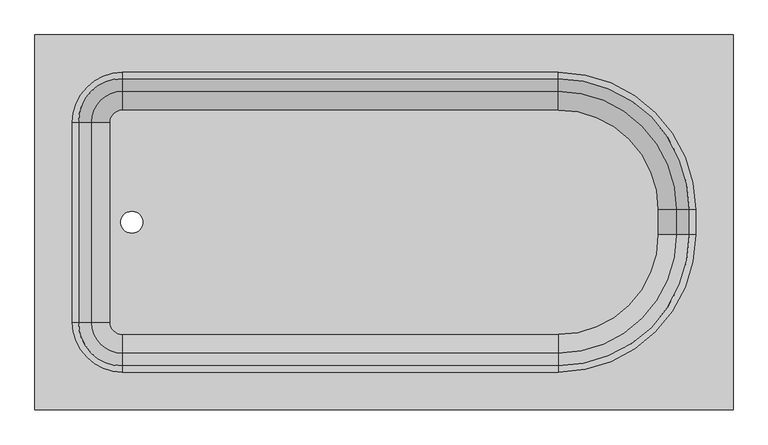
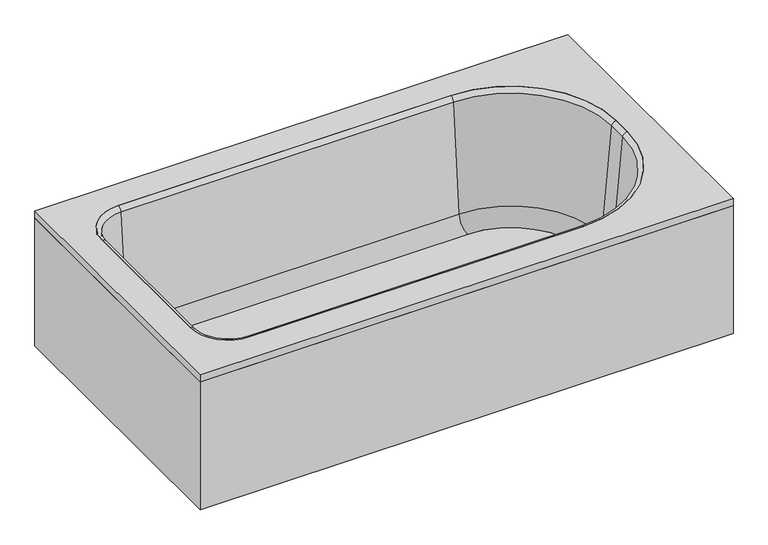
"""IFC4 building model written with IfcOpenShell, lengths in millimetres: flow terminal geometry, 浴缸-矩形(含牆) : 浴缸-矩形(含牆)."""

from ifc_helpers import new_model, si_unit, point, frame, frame_2d, origin, origin_with_axes, place, context, project, spatial, polyline, circle_curve, ellipse_curve, trimmed, segment, composite_curve, outline, extrude, source, transform, mapped, element, save
from ifc_brep_helpers import plane_surface, cylinder_surface, revolved_surface, advanced_brep


def flow_terminal_81ddfa0a(model_context):
    return source(origin(), model_context, "Body", "SolidModel", [
        extrude(outline(polyline([(309.3970313, 822.0), (309.3970313, 60.0), (-1110.6029687, 60.0), (-1110.6029687, 822.0), (309.3970313, 822.0)]), holes=[composite_curve([segment(trimmed(circle_curve(frame_2d((-932.8029687, 644.2)), 101.6), [point((-932.8029687, 745.8))], [point((-1034.4029687, 644.2))], True, "CARTESIAN"), True, "CONTINUOUS"), segment(polyline([(-1034.4029687, 644.2), (-1034.4029687, 237.8)]), True, "CONTINUOUS"), segment(trimmed(circle_curve(frame_2d((-932.8029687, 237.8)), 101.6), [point((-1034.4029687, 237.8))], [point((-932.8029687, 136.2))], True, "CARTESIAN"), True, "CONTINUOUS"), segment(polyline([(-932.8029687, 136.2), (-46.2029687, 136.2)]), True, "CONTINUOUS"), segment(trimmed(circle_curve(frame_2d((-46.2029687, 415.6)), 279.4), [point((-46.2029687, 136.2))], [point((233.1970313, 415.6))], True, "CARTESIAN"), True, "CONTINUOUS"), segment(polyline([(233.1970313, 415.6), (233.1970313, 466.4)]), True, "CONTINUOUS"), segment(trimmed(circle_curve(frame_2d((-46.2029687, 466.4)), 279.4), [point((233.1970313, 466.4))], [point((-46.2029687, 745.8))], True, "CARTESIAN"), True, "CONTINUOUS"), segment(polyline([(-46.2029687, 745.8), (-932.8029687, 745.8)]), True, "CONTINUOUS")], self_intersect=False)]), frame((0.0, 0.0, 360.95), z_axis=(0.0, 0.0, 1.0), x_axis=(1.0, 0.0, 0.0)), (0.0, 0.0, 1.0), 19.05),
        extrude(outline(polyline([(309.3970313, 822.0), (309.3970313, 60.0), (-1110.6029687, 60.0), (-1110.6029687, 822.0), (309.3970313, 822.0)]), holes=[polyline([(290.3470313, 802.95), (-1091.5529687, 802.95), (-1091.5529687, 79.05), (290.3470313, 79.05), (290.3470313, 802.95)])]), origin_with_axes(), (0.0, 0.0, 1.0), 360.95),
        extrude(outline(composite_curve([segment(trimmed(circle_curve(frame_2d((-46.2029687, 466.4)), 202.7964741), [point((-46.2029687, 669.1964741))], [point((156.5935054, 466.4))], False, "CARTESIAN"), True, "CONTINUOUS"), segment(polyline([(156.5935054, 466.4), (156.5935054, 415.6)]), True, "CONTINUOUS"), segment(trimmed(circle_curve(frame_2d((-46.2029687, 415.6)), 202.7964741), [point((156.5935054, 415.6))], [point((-46.2029687, 212.8035259))], False, "CARTESIAN"), True, "CONTINUOUS"), segment(polyline([(-46.2029687, 212.8035259), (-932.8029687, 212.8035259)]), True, "CONTINUOUS"), segment(trimmed(circle_curve(frame_2d((-932.8029687, 237.8)), 24.9964741), [point((-932.8029687, 212.8035259))], [point((-957.7994428, 237.8))], False, "CARTESIAN"), True, "CONTINUOUS"), segment(polyline([(-957.7994428, 237.8), (-957.7994428, 644.2)]), True, "CONTINUOUS"), segment(trimmed(circle_curve(frame_2d((-932.8029687, 644.2)), 24.9964741), [point((-957.7994428, 644.2))], [point((-932.8029687, 669.1964741))], False, "CARTESIAN"), True, "CONTINUOUS"), segment(polyline([(-932.8029687, 669.1964741), (-46.2029687, 669.1964741)]), True, "CONTINUOUS")], self_intersect=False), holes=[composite_curve([segment(trimmed(circle_curve(frame_2d((-913.5971625, 441.0)), 22.225), [point((-913.5971625, 463.225))], [point((-913.5971625, 418.775))], True, "CARTESIAN"), True, "CONTINUOUS"), segment(trimmed(circle_curve(frame_2d((-913.5971625, 441.0)), 22.225), [point((-913.5971625, 418.775))], [point((-913.5971625, 463.225))], True, "CARTESIAN"), True, "CONTINUOUS")], self_intersect=False)]), frame((0.0, 0.0, 15.863573), z_axis=(0.0, 0.0, 1.0), x_axis=(1.0, 0.0, 0.0)), (0.0, 0.0, 1.0), 19.05),
        advanced_brep(
        [(-995.7544608, 644.2, 69.6929392), (-932.8029687, 707.1514921, 69.6929392), (-932.8029687, 733.3220035, 368.8232535), (-1021.9249722, 644.2, 368.8232535), (-957.7994428, 644.2, 34.913573), (-932.8029687, 669.1964741, 34.913573), (-957.7994428, 644.2, 15.863573), (-932.8029687, 669.1964741, 15.863573), (-1034.4029687, 644.2, 15.863573), (-932.8029687, 745.8, 15.863573), (-1034.4029687, 644.2, 380.0), (-932.8029687, 745.8, 380.0), (-1021.9249722, 237.8, 368.8232535), (-995.7544608, 237.8, 69.6929392), (-957.7994428, 237.8, 34.913573), (-957.7994428, 237.8, 15.863573), (-1034.4029687, 237.8, 15.863573), (-1034.4029687, 237.8, 380.0), (-932.8029687, 174.8485079, 69.6929392), (-932.8029687, 148.6779965, 368.8232535), (-932.8029687, 212.8035259, 34.913573), (-932.8029687, 212.8035259, 15.863573), (-932.8029687, 136.2, 15.863573), (-932.8029687, 136.2, 380.0), (-46.2029687, 148.6779965, 368.8232535), (-46.2029687, 174.8485079, 69.6929392), (-46.2029687, 212.8035259, 34.913573), (-46.2029687, 212.8035259, 15.863573), (-46.2029687, 136.2, 15.863573), (-46.2029687, 136.2, 380.0), (194.5485234, 415.6, 69.6929392), (220.7190348, 415.6, 368.8232535), (156.5935054, 415.6, 34.913573), (156.5935054, 415.6, 15.863573), (233.1970313, 415.6, 15.863573), (233.1970313, 415.6, 380.0), (220.7190348, 466.4, 368.8232535), (194.5485234, 466.4, 69.6929392), (156.5935054, 466.4, 34.913573), (156.5935054, 466.4, 15.863573), (233.1970313, 466.4, 15.863573), (233.1970313, 466.4, 380.0), (-46.2029687, 707.1514921, 69.6929392), (-46.2029687, 733.3220035, 368.8232535), (-46.2029687, 669.1964741, 34.913573), (-46.2029687, 669.1964741, 15.863573), (-46.2029687, 745.8, 15.863573), (-46.2029687, 745.8, 380.0)],
        [
            (0, 1, circle_curve(frame((-932.8029687, 644.2, 69.6929392), z_axis=(0.0, 0.0, -1.0), x_axis=(0.0, 1.0, 0.0)), 62.9514921)),
            (1, 2),
            (2, 3, circle_curve(frame((-932.8029687, 644.2, 368.8232535), z_axis=(0.0, 0.0, 1.0), x_axis=(0.0, 1.0, 0.0)), 89.1220035)),
            (3, 0),
            (4, 5, circle_curve(frame((-932.8029687, 644.2, 34.913573), z_axis=(0.0, 0.0, -1.0), x_axis=(0.0, 1.0, 0.0)), 24.9964741)),
            (5, 1, circle_curve(frame((-932.8029687, 669.1964741, 73.013573), z_axis=(1.0, 0.0, 0.0), x_axis=(0.0, -1.0, 0.0)), 38.1)),
            (0, 4, circle_curve(frame((-957.7994428, 644.2, 73.013573), z_axis=(0.0, -1.0, 0.0), x_axis=(1.0, 0.0, 0.0)), 38.1)),
            (6, 7, circle_curve(frame((-932.8029687, 644.2, 15.863573), z_axis=(0.0, 0.0, -1.0), x_axis=(0.0, 1.0, 0.0)), 24.9964741)),
            (7, 5),
            (4, 6),
            (8, 9, circle_curve(frame((-932.8029687, 644.2, 15.863573), z_axis=(0.0, 0.0, -1.0), x_axis=(0.0, 1.0, 0.0)), 101.6)),
            (9, 7),
            (6, 8),
            (10, 11, circle_curve(frame((-932.8029687, 644.2, 380.0), z_axis=(0.0, 0.0, -1.0), x_axis=(0.0, 1.0, 0.0)), 101.6)),
            (11, 9),
            (8, 10),
            (2, 11, circle_curve(frame((-932.8029687, 745.8, 367.4462547), z_axis=(-1.0, 0.0, 0.0), x_axis=(0.0, -1.0, 0.0)), 12.5537453)),
            (10, 3, circle_curve(frame((-1034.4029687, 644.2, 367.4462547), z_axis=(0.0, 1.0, 0.0), x_axis=(1.0, 0.0, 0.0)), 12.5537453)),
            (3, 12),
            (12, 13),
            (13, 0),
            (13, 14, circle_curve(frame((-957.7994428, 237.8, 73.013573), z_axis=(0.0, -1.0, 0.0), x_axis=(1.0, 0.0, 0.0)), 38.1)),
            (14, 4),
            (14, 15),
            (15, 6),
            (15, 16),
            (16, 8),
            (16, 17),
            (17, 10),
            (17, 12, circle_curve(frame((-1034.4029687, 237.8, 367.4462547), z_axis=(0.0, 1.0, 0.0), x_axis=(1.0, 0.0, 0.0)), 12.5537453)),
            (18, 13, circle_curve(frame((-932.8029687, 237.8, 69.6929392), z_axis=(0.0, 0.0, -1.0), x_axis=(-1.0, 0.0, 0.0)), 62.9514921)),
            (12, 19, circle_curve(frame((-932.8029687, 237.8, 368.8232535), z_axis=(0.0, 0.0, 1.0), x_axis=(-1.0, 0.0, 0.0)), 89.1220035)),
            (19, 18),
            (20, 14, circle_curve(frame((-932.8029687, 237.8, 34.913573), z_axis=(0.0, 0.0, -1.0), x_axis=(-1.0, 0.0, 0.0)), 24.9964741)),
            (18, 20, circle_curve(frame((-932.8029687, 212.8035259, 73.013573), z_axis=(1.0, 0.0, 0.0), x_axis=(0.0, 1.0, 0.0)), 38.1)),
            (21, 15, circle_curve(frame((-932.8029687, 237.8, 15.863573), z_axis=(0.0, 0.0, -1.0), x_axis=(-1.0, 0.0, 0.0)), 24.9964741)),
            (20, 21),
            (22, 16, circle_curve(frame((-932.8029687, 237.8, 15.863573), z_axis=(0.0, 0.0, -1.0), x_axis=(-1.0, 0.0, 0.0)), 101.6)),
            (21, 22),
            (23, 17, circle_curve(frame((-932.8029687, 237.8, 380.0), z_axis=(0.0, 0.0, -1.0), x_axis=(-1.0, 0.0, 0.0)), 101.6)),
            (22, 23),
            (23, 19, circle_curve(frame((-932.8029687, 136.2, 367.4462547), z_axis=(-1.0, 0.0, 0.0), x_axis=(0.0, 1.0, 0.0)), 12.5537453)),
            (19, 24),
            (24, 25),
            (25, 18),
            (25, 26, circle_curve(frame((-46.2029687, 212.8035259, 73.013573), z_axis=(1.0, 0.0, 0.0), x_axis=(0.0, 1.0, 0.0)), 38.1)),
            (26, 20),
            (26, 27),
            (27, 21),
            (27, 28),
            (28, 22),
            (28, 29),
            (29, 23),
            (29, 24, circle_curve(frame((-46.2029687, 136.2, 367.4462547), z_axis=(-1.0, 0.0, 0.0), x_axis=(0.0, 1.0, 0.0)), 12.5537453)),
            (30, 25, circle_curve(frame((-46.2029687, 415.6, 69.6929392), z_axis=(0.0, 0.0, -1.0), x_axis=(0.0, -1.0, 0.0)), 240.7514921)),
            (24, 31, circle_curve(frame((-46.2029687, 415.6, 368.8232535), z_axis=(0.0, 0.0, 1.0), x_axis=(0.0, -1.0, 0.0)), 266.9220035)),
            (31, 30),
            (32, 26, circle_curve(frame((-46.2029687, 415.6, 34.913573), z_axis=(0.0, 0.0, -1.0), x_axis=(0.0, -1.0, 0.0)), 202.7964741)),
            (30, 32, circle_curve(frame((156.5935054, 415.6, 73.013573), z_axis=(0.0, 1.0, 0.0), x_axis=(-1.0, 0.0, 0.0)), 38.1)),
            (33, 27, circle_curve(frame((-46.2029687, 415.6, 15.863573), z_axis=(0.0, 0.0, -1.0), x_axis=(0.0, -1.0, 0.0)), 202.7964741)),
            (32, 33),
            (34, 28, circle_curve(frame((-46.2029687, 415.6, 15.863573), z_axis=(0.0, 0.0, -1.0), x_axis=(0.0, -1.0, 0.0)), 279.4)),
            (33, 34),
            (35, 29, circle_curve(frame((-46.2029687, 415.6, 380.0), z_axis=(0.0, 0.0, -1.0), x_axis=(0.0, -1.0, 0.0)), 279.4)),
            (34, 35),
            (35, 31, circle_curve(frame((233.1970313, 415.6, 367.4462547), z_axis=(0.0, -1.0, 0.0), x_axis=(-1.0, 0.0, 0.0)), 12.5537453)),
            (31, 36),
            (36, 37),
            (37, 30),
            (37, 38, circle_curve(frame((156.5935054, 466.4, 73.013573), z_axis=(0.0, 1.0, 0.0), x_axis=(-1.0, 0.0, 0.0)), 38.1)),
            (38, 32),
            (38, 39),
            (39, 33),
            (39, 40),
            (40, 34),
            (40, 41),
            (41, 35),
            (41, 36, circle_curve(frame((233.1970313, 466.4, 367.4462547), z_axis=(0.0, -1.0, 0.0), x_axis=(-1.0, 0.0, 0.0)), 12.5537453)),
            (42, 37, circle_curve(frame((-46.2029687, 466.4, 69.6929392), z_axis=(0.0, 0.0, -1.0), x_axis=(1.0, 0.0, 0.0)), 240.7514921)),
            (36, 43, circle_curve(frame((-46.2029687, 466.4, 368.8232535), z_axis=(0.0, 0.0, 1.0), x_axis=(1.0, 0.0, 0.0)), 266.9220035)),
            (43, 42),
            (44, 38, circle_curve(frame((-46.2029687, 466.4, 34.913573), z_axis=(0.0, 0.0, -1.0), x_axis=(1.0, 0.0, 0.0)), 202.7964741)),
            (42, 44, circle_curve(frame((-46.2029687, 669.1964741, 73.013573), z_axis=(-1.0, 0.0, 0.0), x_axis=(0.0, -1.0, 0.0)), 38.1)),
            (45, 39, circle_curve(frame((-46.2029687, 466.4, 15.863573), z_axis=(0.0, 0.0, -1.0), x_axis=(1.0, 0.0, 0.0)), 202.7964741)),
            (44, 45),
            (46, 40, circle_curve(frame((-46.2029687, 466.4, 15.863573), z_axis=(0.0, 0.0, -1.0), x_axis=(1.0, 0.0, 0.0)), 279.4)),
            (45, 46),
            (47, 41, circle_curve(frame((-46.2029687, 466.4, 380.0), z_axis=(0.0, 0.0, -1.0), x_axis=(1.0, 0.0, 0.0)), 279.4)),
            (46, 47),
            (47, 43, circle_curve(frame((-46.2029687, 745.8, 367.4462547), z_axis=(1.0, 0.0, 0.0), x_axis=(0.0, -1.0, 0.0)), 12.5537453)),
            (43, 2),
            (1, 42),
            (5, 44),
            (7, 45),
            (9, 46),
            (11, 47),
        ],
        [
            revolved_surface(polyline([(-932.8029687, 733.3220035, 368.8232535), (-932.8029687, 707.1514921, 69.6929392)]), (-932.8029687, 644.2, 380.0), (0.0, 0.0, 1.0)),
            revolved_surface(trimmed(ellipse_curve(frame((-932.8029687, 669.1964741, 73.013573), z_axis=(-1.0, 0.0, 0.0), x_axis=(0.0, -1.0, 0.0)), 38.1, 38.1), [point((-932.8029687, 707.1514921, 69.6929392))], [point((-932.8029687, 669.1964741, 34.913573))], True, "CARTESIAN"), (-932.8029687, 644.2, 380.0), (0.0, 0.0, 1.0)),
            revolved_surface(polyline([(-932.8029687, 669.1964741, 34.913572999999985), (-932.8029687, 669.1964741, 15.863572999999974)]), (-932.8029687, 644.2, 380.0), (0.0, 0.0, 1.0)),
            plane_surface(frame((-932.8029687, 644.2, 15.863573), z_axis=(0.0, 0.0, -1.0), x_axis=(0.0, 1.0, 0.0))),
            cylinder_surface(frame((-932.8029687, 644.2, 380.0), z_axis=(0.0, 0.0, 1.0), x_axis=(0.0, 1.0, 0.0)), 101.6),
            revolved_surface(trimmed(ellipse_curve(frame((-932.8029687, 745.8, 367.4462547), z_axis=(1.0, 0.0, 0.0), x_axis=(0.0, -1.0, 0.0)), 12.5537453, 12.5537453), [point((-932.8029687, 745.8, 380.0))], [point((-932.8029687, 733.3220035, 368.8232535))], True, "CARTESIAN"), (-932.8029687, 644.2, 380.0), (0.0, 0.0, 1.0)),
            plane_surface(frame((-1021.9249722, 644.2, 368.8232535), z_axis=(0.9961946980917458, 0.0, 0.08715574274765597), x_axis=(0.0, -1.0, 0.0))),
            revolved_surface(polyline([(-919.6994427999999, 237.8, 73.013573), (-919.6994427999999, 644.2, 73.013573)]), (-957.7994428, 644.2, 73.013573), (0.0, -1.0, 0.0)),
            plane_surface(frame((-957.7994428, 644.2, 34.913573), z_axis=(1.0, 0.0, 0.0), x_axis=(0.0, -1.0, 0.0))),
            plane_surface(frame((-957.7994428, 644.2, 15.863573), z_axis=(0.0, 0.0, -1.0), x_axis=(0.0, -1.0, 0.0))),
            plane_surface(frame((-1034.4029687, 644.2, 15.863573), z_axis=(-1.0, 0.0, 0.0), x_axis=(0.0, -1.0, 0.0))),
            cylinder_surface(frame((-1034.4029687, 644.2, 367.4462547), z_axis=(0.0, 1.0, 0.0), x_axis=(1.0, 0.0, 0.0)), 12.5537453),
            revolved_surface(polyline([(-1021.9249722, 237.8, 368.8232535), (-995.7544608, 237.8, 69.6929392)]), (-932.8029687, 237.8, 380.0), (0.0, 0.0, 1.0)),
            revolved_surface(trimmed(ellipse_curve(frame((-957.7994428, 237.8, 73.013573), z_axis=(0.0, -1.0, 0.0), x_axis=(1.0, 0.0, 0.0)), 38.1, 38.1), [point((-995.7544608, 237.8, 69.6929392))], [point((-957.7994428, 237.8, 34.913573))], True, "CARTESIAN"), (-932.8029687, 237.8, 380.0), (0.0, 0.0, 1.0)),
            revolved_surface(polyline([(-957.7994428, 237.8, 34.913572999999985), (-957.7994428, 237.8, 15.863572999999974)]), (-932.8029687, 237.8, 380.0), (0.0, 0.0, 1.0)),
            plane_surface(frame((-932.8029687, 237.8, 15.863573), z_axis=(0.0, 0.0, -1.0), x_axis=(-1.0, 0.0, 0.0))),
            cylinder_surface(frame((-932.8029687, 237.8, 380.0), z_axis=(0.0, 0.0, 1.0), x_axis=(-1.0, 0.0, 0.0)), 101.6),
            revolved_surface(trimmed(ellipse_curve(frame((-1034.4029687, 237.8, 367.4462547), z_axis=(0.0, 1.0, 0.0), x_axis=(1.0, 0.0, 0.0)), 12.5537453, 12.5537453), [point((-1034.4029687, 237.8, 380.0))], [point((-1021.9249722, 237.8, 368.8232535))], True, "CARTESIAN"), (-932.8029687, 237.8, 380.0), (0.0, 0.0, 1.0)),
            plane_surface(frame((-932.8029687, 148.6779965, 368.8232535), z_axis=(0.0, 0.9961946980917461, 0.08715574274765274), x_axis=(1.0, 0.0, 0.0))),
            revolved_surface(polyline([(-46.20296870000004, 250.9035259, 73.013573), (-932.8029687, 250.9035259, 73.013573)]), (-932.8029687, 212.8035259, 73.013573), (1.0, 0.0, 0.0)),
            plane_surface(frame((-932.8029687, 212.8035259, 34.913573), z_axis=(0.0, 1.0, 0.0), x_axis=(1.0, 0.0, 0.0))),
            plane_surface(frame((-932.8029687, 212.8035259, 15.863573), z_axis=(0.0, 0.0, -1.0), x_axis=(1.0, 0.0, 0.0))),
            plane_surface(frame((-932.8029687, 136.2, 15.863573), z_axis=(0.0, -1.0, 0.0), x_axis=(1.0, 0.0, 0.0))),
            cylinder_surface(frame((-932.8029687, 136.2, 367.4462547), z_axis=(-1.0, 0.0, 0.0), x_axis=(0.0, 1.0, 0.0)), 12.5537453),
            revolved_surface(polyline([(-46.2029687, 148.6779965, 368.8232535), (-46.2029687, 174.8485079, 69.6929392)]), (-46.2029687, 415.6, 380.0), (0.0, 0.0, 1.0)),
            revolved_surface(trimmed(ellipse_curve(frame((-46.2029687, 212.8035259, 73.013573), z_axis=(1.0, 0.0, 0.0), x_axis=(0.0, 1.0, 0.0)), 38.1, 38.1), [point((-46.2029687, 174.8485079, 69.6929392))], [point((-46.2029687, 212.8035259, 34.913573))], True, "CARTESIAN"), (-46.2029687, 415.6, 380.0), (0.0, 0.0, 1.0)),
            revolved_surface(polyline([(-46.2029687, 212.8035259, 34.913572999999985), (-46.2029687, 212.8035259, 15.863572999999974)]), (-46.2029687, 415.6, 380.0), (0.0, 0.0, 1.0)),
            plane_surface(frame((-46.2029687, 415.6, 15.863573), z_axis=(0.0, 0.0, -1.0), x_axis=(0.0, -1.0, 0.0))),
            cylinder_surface(frame((-46.2029687, 415.6, 380.0), z_axis=(0.0, 0.0, 1.0), x_axis=(0.0, -1.0, 0.0)), 279.4),
            revolved_surface(trimmed(ellipse_curve(frame((-46.2029687, 136.2, 367.4462547), z_axis=(-1.0, 0.0, 0.0), x_axis=(0.0, 1.0, 0.0)), 12.5537453, 12.5537453), [point((-46.2029687, 136.2, 380.0))], [point((-46.2029687, 148.6779965, 368.8232535))], True, "CARTESIAN"), (-46.2029687, 415.6, 380.0), (0.0, 0.0, 1.0)),
            plane_surface(frame((220.7190348, 415.6, 368.8232535), z_axis=(-0.9961946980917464, 0.0, 0.0871557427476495), x_axis=(0.0, 1.0, 0.0))),
            revolved_surface(polyline([(118.4935054, 466.4, 73.013573), (118.4935054, 415.6, 73.013573)]), (156.5935054, 415.6, 73.013573), (0.0, 1.0, 0.0)),
            plane_surface(frame((156.5935054, 415.6, 34.913573), z_axis=(-1.0, 0.0, 0.0), x_axis=(0.0, 1.0, 0.0))),
            plane_surface(frame((156.5935054, 415.6, 15.863573), z_axis=(0.0, 0.0, -1.0), x_axis=(0.0, 1.0, 0.0))),
            plane_surface(frame((233.1970313, 415.6, 15.863573), z_axis=(1.0, 0.0, 0.0), x_axis=(0.0, 1.0, 0.0))),
            cylinder_surface(frame((233.1970313, 415.6, 367.4462547), z_axis=(0.0, -1.0, 0.0), x_axis=(-1.0, 0.0, 0.0)), 12.5537453),
            revolved_surface(polyline([(220.7190348, 466.4, 368.8232535), (194.5485234, 466.4, 69.6929392)]), (-46.2029687, 466.4, 380.0), (0.0, 0.0, 1.0)),
            revolved_surface(trimmed(ellipse_curve(frame((156.5935054, 466.4, 73.013573), z_axis=(0.0, 1.0, 0.0), x_axis=(-1.0, 0.0, 0.0)), 38.1, 38.1), [point((194.5485234, 466.4, 69.6929392))], [point((156.5935054, 466.4, 34.913573))], True, "CARTESIAN"), (-46.2029687, 466.4, 380.0), (0.0, 0.0, 1.0)),
            revolved_surface(polyline([(156.59350540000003, 466.4, 34.913572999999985), (156.59350540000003, 466.4, 15.863572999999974)]), (-46.2029687, 466.4, 380.0), (0.0, 0.0, 1.0)),
            plane_surface(frame((-46.2029687, 466.4, 15.863573), z_axis=(0.0, 0.0, -1.0), x_axis=(1.0, 0.0, 0.0))),
            cylinder_surface(frame((-46.2029687, 466.4, 380.0), z_axis=(0.0, 0.0, 1.0), x_axis=(1.0, 0.0, 0.0)), 279.4),
            revolved_surface(trimmed(ellipse_curve(frame((233.1970313, 466.4, 367.4462547), z_axis=(0.0, -1.0, 0.0), x_axis=(-1.0, 0.0, 0.0)), 12.5537453, 12.5537453), [point((233.1970313, 466.4, 380.0))], [point((220.7190348, 466.4, 368.8232535))], True, "CARTESIAN"), (-46.2029687, 466.4, 380.0), (0.0, 0.0, 1.0)),
            plane_surface(frame((-46.2029687, 733.3220035, 368.8232535), z_axis=(0.0, -0.9961946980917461, 0.08715574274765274), x_axis=(-1.0, 0.0, 0.0))),
            revolved_surface(polyline([(-932.8029687, 631.0964741, 73.013573), (-46.2029687, 631.0964741, 73.013573)]), (-46.2029687, 669.1964741, 73.013573), (-1.0, 0.0, 0.0)),
            plane_surface(frame((-46.2029687, 669.1964741, 34.913573), z_axis=(0.0, -1.0, 0.0), x_axis=(-1.0, 0.0, 0.0))),
            plane_surface(frame((-46.2029687, 669.1964741, 15.863573), z_axis=(0.0, 0.0, -1.0), x_axis=(-1.0, 0.0, 0.0))),
            plane_surface(frame((-46.2029687, 745.8, 15.863573), z_axis=(0.0, 1.0, 0.0), x_axis=(-1.0, 0.0, 0.0))),
            cylinder_surface(frame((-46.2029687, 745.8, 367.4462547), z_axis=(1.0, 0.0, 0.0), x_axis=(0.0, -1.0, 0.0)), 12.5537453),
        ],
        [
            (0, [[1, 2, 3, 4]]),
            (1, [[5, 6, -1, 7]]),
            (2, [[8, 9, -5, 10]]),
            (3, [[11, 12, -8, 13]]),
            (4, [[14, 15, -11, 16]]),
            (5, [[-3, 17, -14, 18]]),
            (6, [[-4, 19, 20, 21]]),
            (7, [[-7, -21, 22, 23]]),
            (8, [[-10, -23, 24, 25]]),
            (9, [[-13, -25, 26, 27]]),
            (10, [[-16, -27, 28, 29]]),
            (11, [[-18, -29, 30, -19]]),
            (12, [[31, -20, 32, 33]]),
            (13, [[34, -22, -31, 35]]),
            (14, [[36, -24, -34, 37]]),
            (15, [[38, -26, -36, 39]]),
            (16, [[40, -28, -38, 41]]),
            (17, [[-32, -30, -40, 42]]),
            (18, [[-33, 43, 44, 45]]),
            (19, [[-35, -45, 46, 47]]),
            (20, [[-37, -47, 48, 49]]),
            (21, [[-39, -49, 50, 51]]),
            (22, [[-41, -51, 52, 53]]),
            (23, [[-42, -53, 54, -43]]),
            (24, [[55, -44, 56, 57]]),
            (25, [[58, -46, -55, 59]]),
            (26, [[60, -48, -58, 61]]),
            (27, [[62, -50, -60, 63]]),
            (28, [[64, -52, -62, 65]]),
            (29, [[-56, -54, -64, 66]]),
            (30, [[-57, 67, 68, 69]]),
            (31, [[-59, -69, 70, 71]]),
            (32, [[-61, -71, 72, 73]]),
            (33, [[-63, -73, 74, 75]]),
            (34, [[-65, -75, 76, 77]]),
            (35, [[-66, -77, 78, -67]]),
            (36, [[79, -68, 80, 81]]),
            (37, [[82, -70, -79, 83]]),
            (38, [[84, -72, -82, 85]]),
            (39, [[86, -74, -84, 87]]),
            (40, [[88, -76, -86, 89]]),
            (41, [[-80, -78, -88, 90]]),
            (42, [[-81, 91, -2, 92]]),
            (43, [[-83, -92, -6, 93]]),
            (44, [[-85, -93, -9, 94]]),
            (45, [[-87, -94, -12, 95]]),
            (46, [[-89, -95, -15, 96]]),
            (47, [[-90, -96, -17, -91]]),
        ],
    ),
    ])


if __name__ == "__main__":
    model = new_model("IFC4")
    model_context = context("Model", 3, world=origin())
    ifc_project = project(units=[si_unit("LENGTHUNIT", "METRE", prefix="MILLI")], contexts=[model_context])
    site = spatial("IfcSite", under=ifc_project)
    building = spatial("IfcBuilding", under=site)
    placement = place(None, origin())
    flow_terminal_shape = flow_terminal_81ddfa0a(model_context)
    element("IfcFlowTerminal", 1, ObjectType="浴缸-矩形(含牆) : 浴缸-矩形(含牆)", at=placement, inside=building, context=model_context, shape_type="MappedRepresentation", body=[
        mapped(flow_terminal_shape, transform((0.0, 0.0, 0.0), x_axis=(1.0, 0.0, 0.0), y_axis=(0.0, 1.0, 0.0), z_axis=(0.0, 0.0, 1.0))),
    ])
    save(model, "model.ifc")
